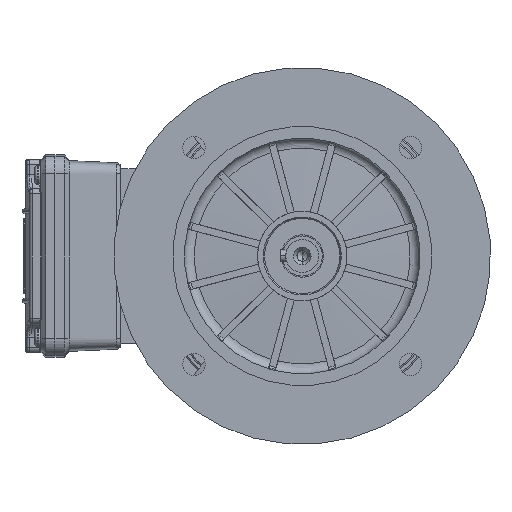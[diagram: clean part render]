
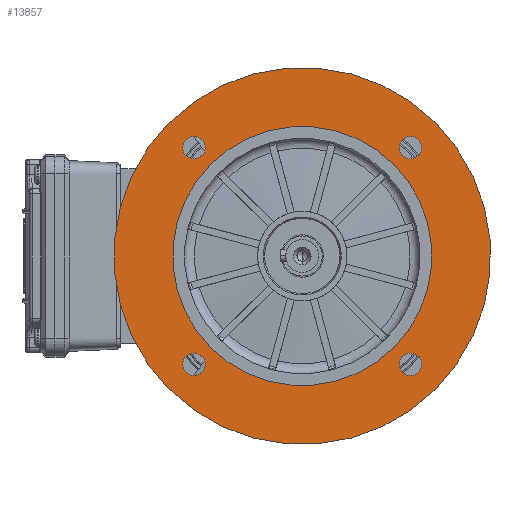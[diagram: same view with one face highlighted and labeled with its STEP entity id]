
A CAD part, left-side view. The second image highlights one B-rep face of the part: STEP entity #13857.
In plain terms, the highlighted planar face has unit normal (-1, 0, 0) as drawn and (0, -1, 0) by its records, which use the part's own axes.
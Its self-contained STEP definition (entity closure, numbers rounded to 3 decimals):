
#170 = DIRECTION ( 'NONE',  ( 0., 0., -1. ) ) ;
#172 = FACE_BOUND ( 'NONE', #60107, .T. ) ;
#856 = VERTEX_POINT ( 'NONE', #31607 ) ;
#1560 = CARTESIAN_POINT ( 'NONE',  ( 0., 3.5, -55. ) ) ;
#2927 = CARTESIAN_POINT ( 'NONE',  ( 0., 3.5, 65. ) ) ;
#3119 = DIRECTION ( 'NONE',  ( 0., -1., 0. ) ) ;
#4477 = VERTEX_POINT ( 'NONE', #96501 ) ;
#4733 = CARTESIAN_POINT ( 'NONE',  ( 65., 3.5, 0. ) ) ;
#6295 = CIRCLE ( 'NONE', #89555, 4.75 ) ;
#6331 = AXIS2_PLACEMENT_3D ( 'NONE', #92187, #43508, #100363 ) ;
#7327 = VERTEX_POINT ( 'NONE', #11444 ) ;
#7489 = ORIENTED_EDGE ( 'NONE', *, *, #98215, .T. ) ;
#7496 = EDGE_LOOP ( 'NONE', ( #78668, #18366 ) ) ;
#8014 = EDGE_CURVE ( 'NONE', #4477, #48342, #51994, .T. ) ;
#8096 = CIRCLE ( 'NONE', #77208, 55. ) ;
#8222 = EDGE_CURVE ( 'NONE', #77944, #61088, #39263, .T. ) ;
#8979 = ORIENTED_EDGE ( 'NONE', *, *, #88569, .F. ) ;
#9299 = ORIENTED_EDGE ( 'NONE', *, *, #43891, .T. ) ;
#11179 = DIRECTION ( 'NONE',  ( 0., 0., -1. ) ) ;
#11444 = CARTESIAN_POINT ( 'NONE',  ( 65., 3.5, -4.75 ) ) ;
#12302 = CARTESIAN_POINT ( 'NONE',  ( 0., 3.5, 80. ) ) ;
#12964 = DIRECTION ( 'NONE',  ( 0., 0., -1. ) ) ;
#13009 = DIRECTION ( 'NONE',  ( 0., -1., 0. ) ) ;
#13857 = ADVANCED_FACE ( 'NONE', ( #65240, #86847, #67767, #172, #84322, #62687 ), #97376, .T. ) ;
#16638 = EDGE_CURVE ( 'NONE', #61088, #77944, #52468, .T. ) ;
#16995 = CARTESIAN_POINT ( 'NONE',  ( 65., 3.5, 4.75 ) ) ;
#17720 = VERTEX_POINT ( 'NONE', #26940 ) ;
#18366 = ORIENTED_EDGE ( 'NONE', *, *, #42058, .T. ) ;
#19337 = DIRECTION ( 'NONE',  ( 0., 1., 0. ) ) ;
#21745 = AXIS2_PLACEMENT_3D ( 'NONE', #32299, #89223, #40532 ) ;
#23381 = DIRECTION ( 'NONE',  ( 0., -1., 0. ) ) ;
#24431 = CIRCLE ( 'NONE', #81981, 4.75 ) ;
#25676 = ORIENTED_EDGE ( 'NONE', *, *, #36845, .T. ) ;
#26940 = CARTESIAN_POINT ( 'NONE',  ( 0., 3.5, -80. ) ) ;
#27800 = DIRECTION ( 'NONE',  ( 0., 1., 0. ) ) ;
#29166 = CARTESIAN_POINT ( 'NONE',  ( 0., 3.5, 65. ) ) ;
#30914 = CIRCLE ( 'NONE', #88796, 80. ) ;
#31020 = VERTEX_POINT ( 'NONE', #73560 ) ;
#31607 = CARTESIAN_POINT ( 'NONE',  ( 0., 3.5, 55. ) ) ;
#32299 = CARTESIAN_POINT ( 'NONE',  ( 0., 3.5, -65. ) ) ;
#33724 = CIRCLE ( 'NONE', #21745, 4.75 ) ;
#34696 = ORIENTED_EDGE ( 'NONE', *, *, #44242, .T. ) ;
#35281 = CARTESIAN_POINT ( 'NONE',  ( 0., 3.5, 0. ) ) ;
#36845 = EDGE_CURVE ( 'NONE', #31020, #53751, #6295, .T. ) ;
#37182 = AXIS2_PLACEMENT_3D ( 'NONE', #97735, #49015, #170 ) ;
#37386 = DIRECTION ( 'NONE',  ( 0., 0., -1. ) ) ;
#38123 = DIRECTION ( 'NONE',  ( 0., 1., 0. ) ) ;
#39263 = CIRCLE ( 'NONE', #99083, 4.75 ) ;
#39315 = ORIENTED_EDGE ( 'NONE', *, *, #56226, .T. ) ;
#39399 = ORIENTED_EDGE ( 'NONE', *, *, #16638, .T. ) ;
#40532 = DIRECTION ( 'NONE',  ( 0., 0., -1. ) ) ;
#42058 = EDGE_CURVE ( 'NONE', #48342, #4477, #33724, .T. ) ;
#42964 = EDGE_LOOP ( 'NONE', ( #76790, #8979 ) ) ;
#43493 = DIRECTION ( 'NONE',  ( 0., 0., -1. ) ) ;
#43508 = DIRECTION ( 'NONE',  ( 0., 1., 0. ) ) ;
#43891 = EDGE_CURVE ( 'NONE', #95334, #7327, #69070, .T. ) ;
#44242 = EDGE_CURVE ( 'NONE', #7327, #95334, #24431, .T. ) ;
#45747 = AXIS2_PLACEMENT_3D ( 'NONE', #4733, #61773, #12964 ) ;
#45939 = AXIS2_PLACEMENT_3D ( 'NONE', #35281, #92168, #43493 ) ;
#48342 = VERTEX_POINT ( 'NONE', #84519 ) ;
#49015 = DIRECTION ( 'NONE',  ( 0., -1., 0. ) ) ;
#51632 = VERTEX_POINT ( 'NONE', #12302 ) ;
#51948 = CARTESIAN_POINT ( 'NONE',  ( 0., 3.5, 0. ) ) ;
#51994 = CIRCLE ( 'NONE', #6331, 4.75 ) ;
#52468 = CIRCLE ( 'NONE', #76898, 4.75 ) ;
#52830 = ORIENTED_EDGE ( 'NONE', *, *, #79791, .T. ) ;
#53095 = VERTEX_POINT ( 'NONE', #1560 ) ;
#53308 = CIRCLE ( 'NONE', #54725, 4.75 ) ;
#53751 = VERTEX_POINT ( 'NONE', #68418 ) ;
#54725 = AXIS2_PLACEMENT_3D ( 'NONE', #2927, #59980, #11179 ) ;
#55461 = EDGE_LOOP ( 'NONE', ( #9299, #34696 ) ) ;
#56226 = EDGE_CURVE ( 'NONE', #17720, #51632, #95164, .T. ) ;
#59980 = DIRECTION ( 'NONE',  ( 0., 1., 0. ) ) ;
#60107 = EDGE_LOOP ( 'NONE', ( #39399, #66977 ) ) ;
#60172 = DIRECTION ( 'NONE',  ( 0., 0., -1. ) ) ;
#61088 = VERTEX_POINT ( 'NONE', #71620 ) ;
#61773 = DIRECTION ( 'NONE',  ( 0., 1., 0. ) ) ;
#61819 = CARTESIAN_POINT ( 'NONE',  ( 0., 3.5, 0. ) ) ;
#61999 = EDGE_LOOP ( 'NONE', ( #39315, #52830 ) ) ;
#62687 = FACE_BOUND ( 'NONE', #42964, .T. ) ;
#62905 = EDGE_CURVE ( 'NONE', #53095, #856, #93343, .T. ) ;
#64247 = EDGE_LOOP ( 'NONE', ( #7489, #25676 ) ) ;
#65240 = FACE_BOUND ( 'NONE', #64247, .T. ) ;
#66977 = ORIENTED_EDGE ( 'NONE', *, *, #8222, .T. ) ;
#67767 = FACE_BOUND ( 'NONE', #55461, .T. ) ;
#68096 = CARTESIAN_POINT ( 'NONE',  ( -65., 3.5, 0. ) ) ;
#68418 = CARTESIAN_POINT ( 'NONE',  ( 0., 3.5, 69.75 ) ) ;
#69070 = CIRCLE ( 'NONE', #45747, 4.75 ) ;
#69972 = DIRECTION ( 'NONE',  ( 0., 0., -1. ) ) ;
#71620 = CARTESIAN_POINT ( 'NONE',  ( -65., 3.5, 4.75 ) ) ;
#72134 = CARTESIAN_POINT ( 'NONE',  ( 0., 3.5, 0. ) ) ;
#73005 = CARTESIAN_POINT ( 'NONE',  ( -65., 3.5, -4.75 ) ) ;
#73560 = CARTESIAN_POINT ( 'NONE',  ( 0., 3.5, 60.25 ) ) ;
#76268 = DIRECTION ( 'NONE',  ( 0., 0., -1. ) ) ;
#76574 = CARTESIAN_POINT ( 'NONE',  ( 65., 3.5, 0. ) ) ;
#76790 = ORIENTED_EDGE ( 'NONE', *, *, #62905, .F. ) ;
#76898 = AXIS2_PLACEMENT_3D ( 'NONE', #68096, #19337, #76268 ) ;
#77208 = AXIS2_PLACEMENT_3D ( 'NONE', #61819, #13009, #69972 ) ;
#77944 = VERTEX_POINT ( 'NONE', #73005 ) ;
#78668 = ORIENTED_EDGE ( 'NONE', *, *, #8014, .T. ) ;
#78844 = AXIS2_PLACEMENT_3D ( 'NONE', #72134, #23381, #80377 ) ;
#79791 = EDGE_CURVE ( 'NONE', #51632, #17720, #30914, .T. ) ;
#80377 = DIRECTION ( 'NONE',  ( 0., 0., -1. ) ) ;
#81981 = AXIS2_PLACEMENT_3D ( 'NONE', #76574, #27800, #84787 ) ;
#84322 = FACE_OUTER_BOUND ( 'NONE', #61999, .T. ) ;
#84519 = CARTESIAN_POINT ( 'NONE',  ( 0., 3.5, -69.75 ) ) ;
#84787 = DIRECTION ( 'NONE',  ( 0., 0., -1. ) ) ;
#86120 = DIRECTION ( 'NONE',  ( 0., 1., 0. ) ) ;
#86846 = CARTESIAN_POINT ( 'NONE',  ( -65., 3.5, 0. ) ) ;
#86847 = FACE_BOUND ( 'NONE', #7496, .T. ) ;
#88569 = EDGE_CURVE ( 'NONE', #856, #53095, #8096, .T. ) ;
#88796 = AXIS2_PLACEMENT_3D ( 'NONE', #51948, #3119, #60172 ) ;
#89223 = DIRECTION ( 'NONE',  ( 0., 1., 0. ) ) ;
#89555 = AXIS2_PLACEMENT_3D ( 'NONE', #29166, #86120, #37386 ) ;
#92168 = DIRECTION ( 'NONE',  ( 0., -1., 0. ) ) ;
#92187 = CARTESIAN_POINT ( 'NONE',  ( 0., 3.5, -65. ) ) ;
#93343 = CIRCLE ( 'NONE', #45939, 55. ) ;
#94982 = DIRECTION ( 'NONE',  ( 0., 0., -1. ) ) ;
#95164 = CIRCLE ( 'NONE', #78844, 80. ) ;
#95334 = VERTEX_POINT ( 'NONE', #16995 ) ;
#96501 = CARTESIAN_POINT ( 'NONE',  ( 0., 3.5, -60.25 ) ) ;
#97376 = PLANE ( 'NONE',  #37182 ) ;
#97735 = CARTESIAN_POINT ( 'NONE',  ( 55., 3.5, 0. ) ) ;
#98215 = EDGE_CURVE ( 'NONE', #53751, #31020, #53308, .T. ) ;
#99083 = AXIS2_PLACEMENT_3D ( 'NONE', #86846, #38123, #94982 ) ;
#100363 = DIRECTION ( 'NONE',  ( 0., 0., -1. ) ) ;
